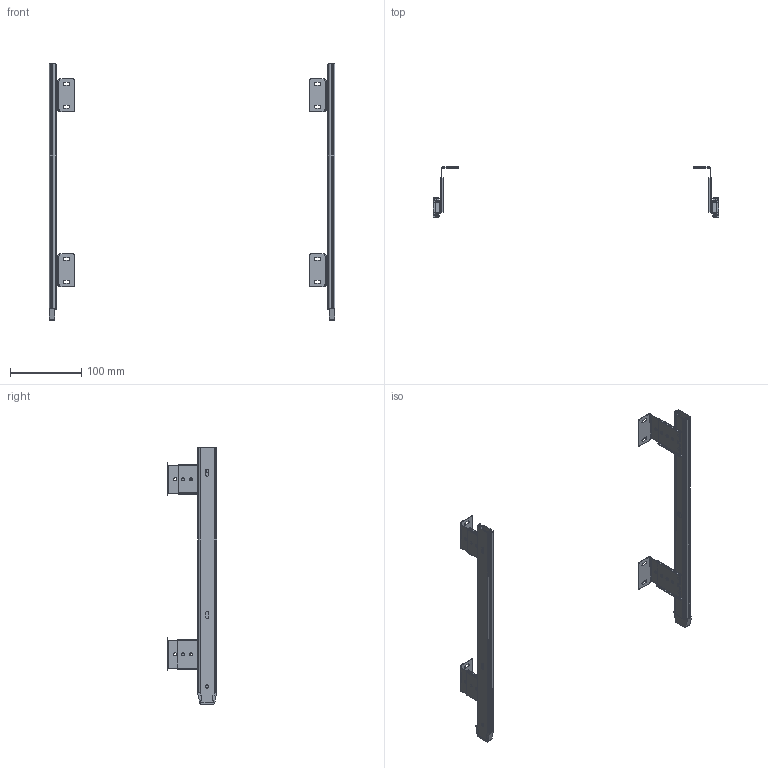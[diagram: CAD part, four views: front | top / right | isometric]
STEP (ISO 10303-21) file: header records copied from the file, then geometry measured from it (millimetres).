
FILE_DESCRIPTION(/* description */ (''),/* implementation_level */ '2;1');
FILE_NAME(/* name */ 'D:\$Workingspace\Designs\Katalog\Cadsoft\GTV Prowadnice\Prowadnice GTV_bryły 3D\PK-0-000-027_69.stp',/* time_stamp */ '2016-11-22T08:39:37+01:00',/* author */ ('tomaszw'),/* organization */ (''),/* preprocessor_version */ 'ST-DEVELOPER v16.1',/* originating_system */ 'Autodesk Inventor 2016',/* authorisation */ '');
FILE_SCHEMA (('AUTOMOTIVE_DESIGN { 1 0 10303 214 3 1 1 }'));
Length unit declared in the file: millimetre
Products named in the file (5): PK-0-000-027_1_1; PK-0-000-027_3_1; PK-0-000-027_2P; PK-0-000-027_2L; PK-0-000-027
Assembly tree (8 placements, depth 2):
  PK-0-000-027
    PK-0-000-027_1_1  x2
    PK-0-000-027_3_1  x4
    PK-0-000-027_2P
    PK-0-000-027_2L
Bounding box: 400 x 69.59 x 359 mm (x, y, z)
Volume: 70814.8 mm3; surface area: 144235.3 mm2
Topology: 14 solids, 14 shells, 424 faces, 1192 edges, 804 vertices
Faces by surface type: plane 244, cylinder 172, bspline 8
Full cylindrical faces by diameter (mm): 3.242 x4, 4 x16, 4.4 x16, 4.5 x2, 8.3 x2
Entity records: 8401 total; most frequent: CARTESIAN_POINT 1574, DIRECTION 1358, ORIENTED_EDGE 1284, EDGE_CURVE 642, AXIS2_PLACEMENT_3D 474, VERTEX_POINT 450, LINE 410, VECTOR 410
